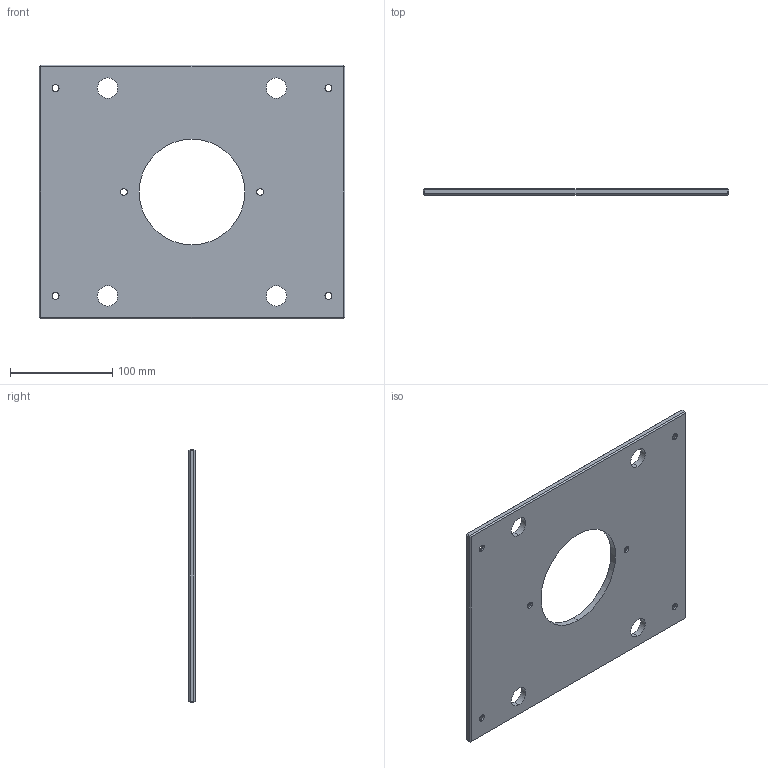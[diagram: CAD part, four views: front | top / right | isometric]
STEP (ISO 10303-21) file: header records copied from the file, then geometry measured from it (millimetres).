
FILE_DESCRIPTION (( 'STEP AP214' ), '1' );
FILE_NAME ('ME-0619-CH-1012.STEP', '2020-02-10T10:36:18', ( '' ), ( '' ), 'SwSTEP 2.0', 'SolidWorks 2018', '' );
FILE_SCHEMA (( 'AUTOMOTIVE_DESIGN' ));
Length unit declared in the file: inch
Products named in the file (1): ME-0619-CH-1012
Bounding box: 298.45 x 6.35 x 247.65 mm (x, y, z)
Volume: 403886.5 mm3; surface area: 137789.1 mm2
Topology: 1 solids, 1 shells, 60 faces, 138 edges, 80 vertices
Faces by surface type: plane 26, cylinder 22, cone 12
Entity records: 1754 total; most frequent: DIRECTION 316, CARTESIAN_POINT 279, ORIENTED_EDGE 276, EDGE_CURVE 138, AXIS2_PLACEMENT_3D 117, EDGE_LOOP 82, LINE 82, VECTOR 82
